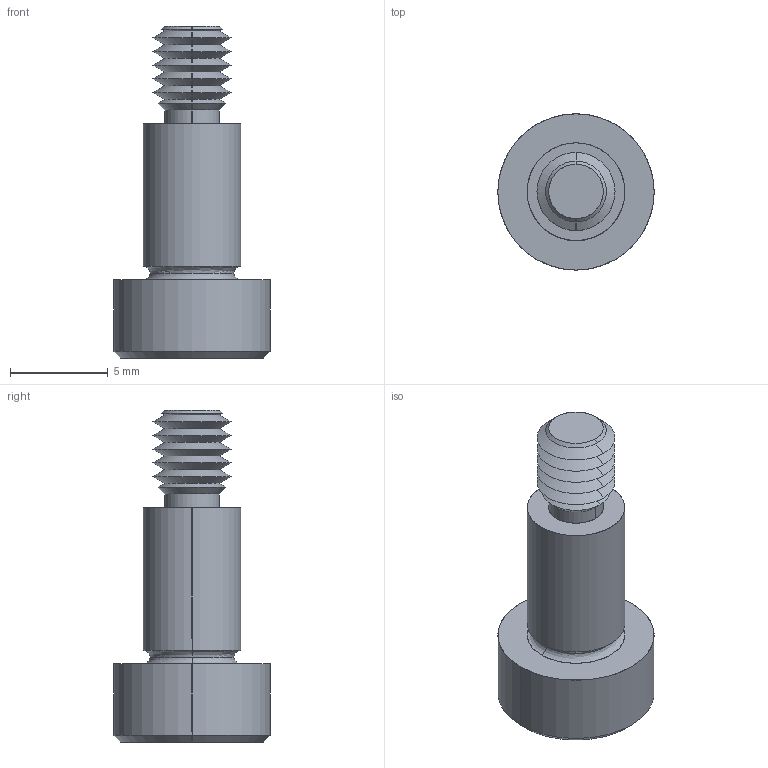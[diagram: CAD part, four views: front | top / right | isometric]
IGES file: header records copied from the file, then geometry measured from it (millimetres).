
Start section: SolidWorks IGES file using analytic representation for surfaces
Global section: file name: C:\Users\IanO\Documents\Temp Folder\GENERAL\SCREW REVISION\P0130_v2\P0130.T5_v2_20220106_IGES\P0130.050-008-T5.igs; native system: SolidWorks 2019; preprocessor: SolidWorks 2019; author: IanO; date: 220106.221417; units: millimetre
Bounding box: 8 x 8 x 17 mm (x, y, z)
Surface area: 441.7 mm2 (no closed solid volume)
Topology: 0 solids, 0 shells, 64 faces, 504 edges, 502 vertices
Faces by surface type: revolution 44, bspline 20
